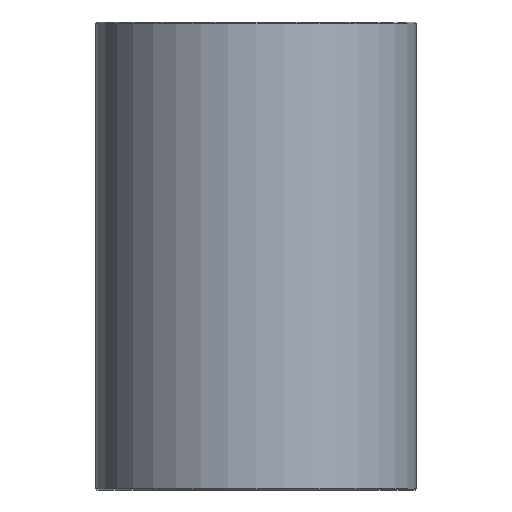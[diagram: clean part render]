
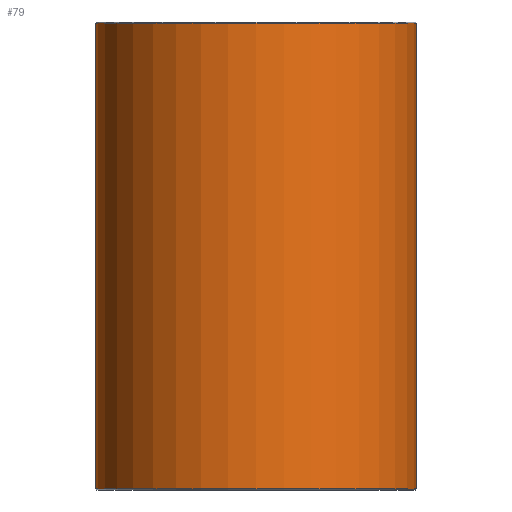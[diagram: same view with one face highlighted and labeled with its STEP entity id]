
A CAD part, front view. The second image highlights one B-rep face of the part: STEP entity #79.
In plain terms, the highlighted cylindrical face has radius 24 mm (diameter 48 mm), a full revolution.
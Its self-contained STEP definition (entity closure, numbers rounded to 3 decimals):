
#79=ADVANCED_FACE('',(#96,#97),#98,.T.);
#96=FACE_OUTER_BOUND('',#120,.T.);
#97=FACE_OUTER_BOUND('',#121,.T.);
#98=CYLINDRICAL_SURFACE('',#122,24.0);
#120=EDGE_LOOP('',(#152));
#121=EDGE_LOOP('',(#153));
#122=AXIS2_PLACEMENT_3D('',#154,#155,#156);
#152=ORIENTED_EDGE('',*,*,#178,.T.);
#153=ORIENTED_EDGE('',*,*,#177,.T.);
#154=CARTESIAN_POINT('',(0.,0.0,70.0));
#155=DIRECTION('',(0.0,0.0,-1.0));
#156=DIRECTION('',(-1.0,0.0,0.0));
#177=EDGE_CURVE('',#190,#190,#191,.T.);
#178=EDGE_CURVE('',#192,#192,#193,.F.);
#190=VERTEX_POINT('',#206);
#191=CIRCLE('',#207,24.0);
#192=VERTEX_POINT('',#208);
#193=CIRCLE('',#209,24.0);
#206=CARTESIAN_POINT('',(24.0,0.0,0.2));
#207=AXIS2_PLACEMENT_3D('',#227,#228,#229);
#208=CARTESIAN_POINT('',(24.0,0.,69.8));
#209=AXIS2_PLACEMENT_3D('',#230,#231,#232);
#227=CARTESIAN_POINT('',(0.,0.0,0.2));
#228=DIRECTION('',(0.0,0.0,1.0));
#229=DIRECTION('',(1.0,0.0,0.0));
#230=CARTESIAN_POINT('',(0.,0.0,69.8));
#231=DIRECTION('',(0.0,0.0,1.0));
#232=DIRECTION('',(1.0,0.0,0.0));
